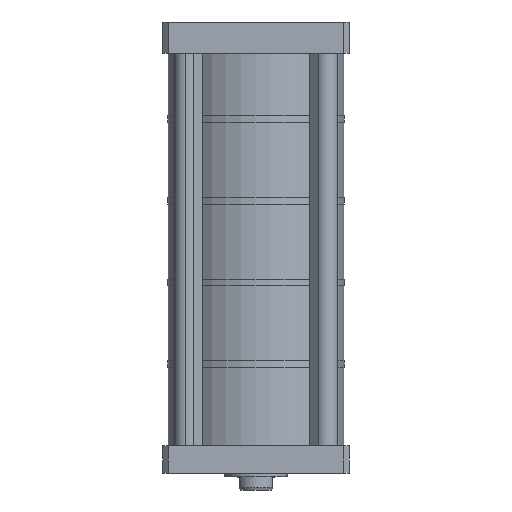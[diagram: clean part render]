
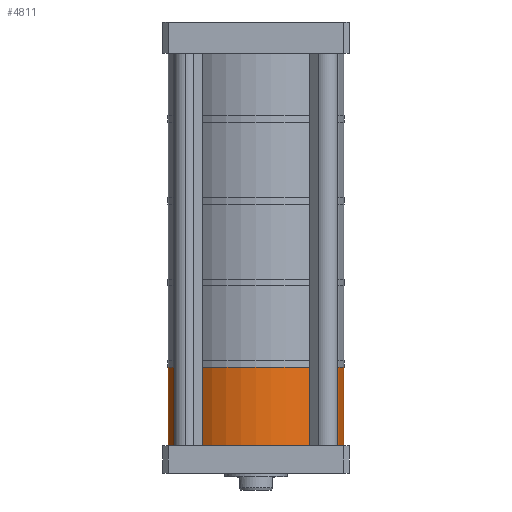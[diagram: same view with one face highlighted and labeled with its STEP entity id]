
A CAD part, front view. The second image highlights one B-rep face of the part: STEP entity #4811.
In plain terms, the highlighted cylindrical face has radius 85 mm (diameter 170 mm), a partial arc.
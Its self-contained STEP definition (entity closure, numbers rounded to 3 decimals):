
#372 = EDGE_CURVE ( 'NONE', #5981, #1930, #11382, .T. ) ;
#802 = VERTEX_POINT ( 'NONE', #3145 ) ;
#887 = AXIS2_PLACEMENT_3D ( 'NONE', #2903, #9248, #3841 ) ;
#915 = DIRECTION ( 'NONE',  ( 0., 0., 1. ) ) ;
#971 = VECTOR ( 'NONE', #8858, 1000. ) ;
#1738 = EDGE_CURVE ( 'NONE', #802, #6125, #9269, .T. ) ;
#1930 = VERTEX_POINT ( 'NONE', #5540 ) ;
#2165 = FACE_OUTER_BOUND ( 'NONE', #4540, .T. ) ;
#2903 = CARTESIAN_POINT ( 'NONE',  ( 0., 0., -379.5 ) ) ;
#2925 = ORIENTED_EDGE ( 'NONE', *, *, #11832, .T. ) ;
#3145 = CARTESIAN_POINT ( 'NONE',  ( 85., 0., -304. ) ) ;
#3422 = CARTESIAN_POINT ( 'NONE',  ( 85., 0., -379.5 ) ) ;
#3489 = CARTESIAN_POINT ( 'NONE',  ( -85., 0., -379.5 ) ) ;
#3749 = CARTESIAN_POINT ( 'NONE',  ( 0., 0., -379.5 ) ) ;
#3841 = DIRECTION ( 'NONE',  ( -1., 0., 0. ) ) ;
#4199 = VECTOR ( 'NONE', #9811, 1000. ) ;
#4357 = CYLINDRICAL_SURFACE ( 'NONE', #11574, 85. ) ;
#4540 = EDGE_LOOP ( 'NONE', ( #6035, #11185, #2925, #6112 ) ) ;
#4811 = ADVANCED_FACE ( 'NONE', ( #2165 ), #4357, .T. ) ;
#5467 = DIRECTION ( 'NONE',  ( 0., 0., -1. ) ) ;
#5540 = CARTESIAN_POINT ( 'NONE',  ( -85., 0., -379.5 ) ) ;
#5981 = VERTEX_POINT ( 'NONE', #8891 ) ;
#6035 = ORIENTED_EDGE ( 'NONE', *, *, #11396, .F. ) ;
#6112 = ORIENTED_EDGE ( 'NONE', *, *, #1738, .T. ) ;
#6125 = VERTEX_POINT ( 'NONE', #8790 ) ;
#8014 = LINE ( 'NONE', #3422, #971 ) ;
#8271 = DIRECTION ( 'NONE',  ( 1., 0., 0. ) ) ;
#8790 = CARTESIAN_POINT ( 'NONE',  ( -85., 0., -304. ) ) ;
#8858 = DIRECTION ( 'NONE',  ( 0., 0., 1. ) ) ;
#8891 = CARTESIAN_POINT ( 'NONE',  ( 85., 0., -379.5 ) ) ;
#8990 = LINE ( 'NONE', #3489, #4199 ) ;
#9120 = AXIS2_PLACEMENT_3D ( 'NONE', #10860, #5467, #11752 ) ;
#9248 = DIRECTION ( 'NONE',  ( 0., 0., -1. ) ) ;
#9269 = CIRCLE ( 'NONE', #9120, 85. ) ;
#9811 = DIRECTION ( 'NONE',  ( 0., 0., 1. ) ) ;
#10860 = CARTESIAN_POINT ( 'NONE',  ( 0., 0., -304. ) ) ;
#11185 = ORIENTED_EDGE ( 'NONE', *, *, #372, .F. ) ;
#11382 = CIRCLE ( 'NONE', #887, 85. ) ;
#11396 = EDGE_CURVE ( 'NONE', #1930, #6125, #8990, .T. ) ;
#11574 = AXIS2_PLACEMENT_3D ( 'NONE', #3749, #915, #8271 ) ;
#11752 = DIRECTION ( 'NONE',  ( -1., 0., 0. ) ) ;
#11832 = EDGE_CURVE ( 'NONE', #5981, #802, #8014, .T. ) ;
